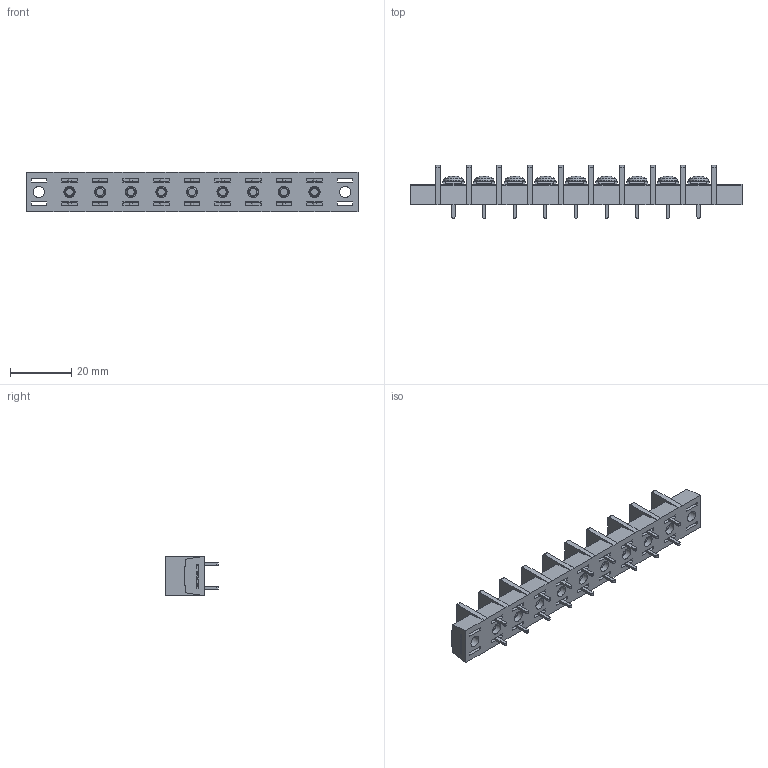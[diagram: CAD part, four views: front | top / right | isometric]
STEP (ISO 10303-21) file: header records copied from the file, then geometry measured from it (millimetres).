
FILE_DESCRIPTION(/* description */ ('Alibre Inc.'),/* implementation_level */ '2;1');
FILE_NAME(/* name */ 'export0',/* time_stamp */ '2015-10-23T18:52:54+09:00',/* author */ (''),/* organization */ (''),/* preprocessor_version */ 'ST-DEVELOPER v14',/* originating_system */ 'Alibre',/* authorisation */ '');
FILE_SCHEMA (('CONFIG_CONTROL_DESIGN'));
Length unit declared in the file: centimetre
Products named in the file (1): ID_1
Bounding box: 108.4 x 17.3 x 12.8 mm (x, y, z)
Volume: 9523.7 mm3; surface area: 11158.3 mm2
Topology: 1 solids, 154 shells, 2977 faces, 7645 edges, 5054 vertices
Faces by surface type: plane 2228, bspline 572, cylinder 105, cone 45, torus 18, sphere 9
Full cylindrical faces by diameter (mm): 3 x18, 3.7 x11, 4.6 x11, 6.3 x9
Entity records: 86125 total; most frequent: CARTESIAN_POINT 20735, ORIENTED_EDGE 15116, DIRECTION 9072, EDGE_CURVE 7558, VECTOR 5815, LINE 5815, VERTEX_POINT 5043, EDGE_LOOP 3269
